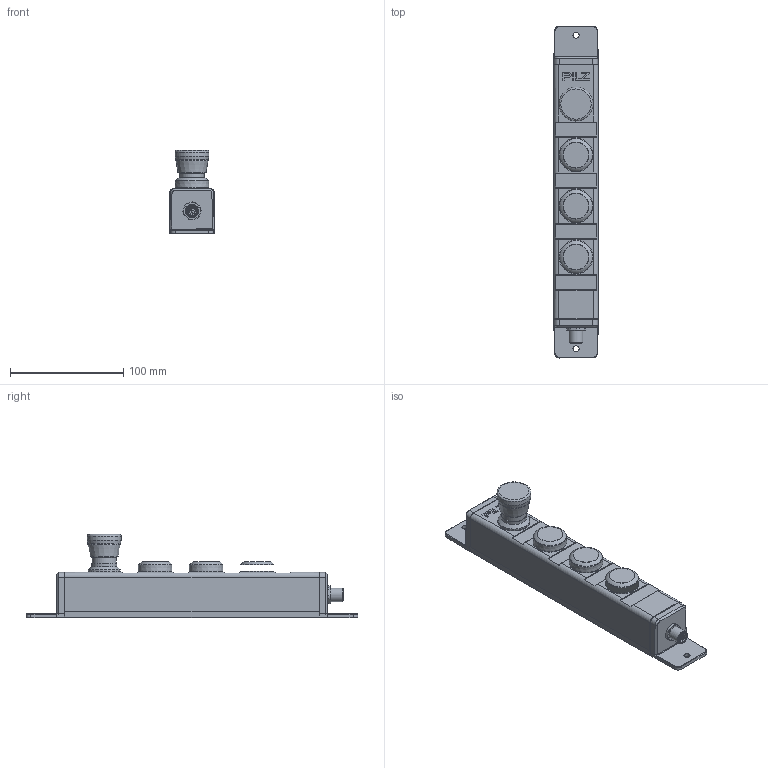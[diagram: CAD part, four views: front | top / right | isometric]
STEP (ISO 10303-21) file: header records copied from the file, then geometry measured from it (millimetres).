
FILE_DESCRIPTION(/* description */ (''),/* implementation_level */ '2;1');
FILE_NAME(/* name */ 'C:\_Vault\Workspace\Projektordner\03-Sensoren\02-STS\09-PITgatebox\03-Kundendaten\2030197_B_PIT_gb_LLLP.stp',/* time_stamp */ '2021-04-16T08:40:39+02:00',/* author */ ('ES-PE'),/* organization */ (''),/* preprocessor_version */ 'ST-DEVELOPER v18.1',/* originating_system */ 'Autodesk Inventor 2020',/* authorisation */ '');
FILE_SCHEMA (('AUTOMOTIVE_DESIGN { 1 0 10303 214 3 1 1 }'));
Length unit declared in the file: millimetre
Products named in the file (4): 2030197; Kundendaten_PIT_gb_Gehäuse; H306916; H306915
Assembly tree (3 placements, depth 2):
  2030197
    Kundendaten_PIT_gb_Gehäuse
    H306916
    H306915
Bounding box: 40 x 293 x 73.38 mm (x, y, z)
Volume: 420329.7 mm3; surface area: 60806.3 mm2
Topology: 6 solids, 6 shells, 551 faces, 1376 edges, 888 vertices
Faces by surface type: cylinder 183, plane 166, cone 128, torus 35, bspline 23, sphere 16
Full cylindrical faces by diameter (mm): 0.6 x12, 1.1 x12, 5.4 x2, 8.3 x1, 9.5 x2, 9.6 x1, 10 x2, 10.6 x1, 11 x1, 12 x1, 12.1 x1, 14 x1, 20 x2, 21.5 x1, 22.2 x1, 22.55 x1, 28 x1, 28.2 x1, 28.6 x3, 29.2 x3
Entity records: 18455 total; most frequent: CARTESIAN_POINT 5166, DIRECTION 2848, ORIENTED_EDGE 2728, EDGE_CURVE 1364, AXIS2_PLACEMENT_3D 1191, VERTEX_POINT 888, CIRCLE 644, EDGE_LOOP 620
